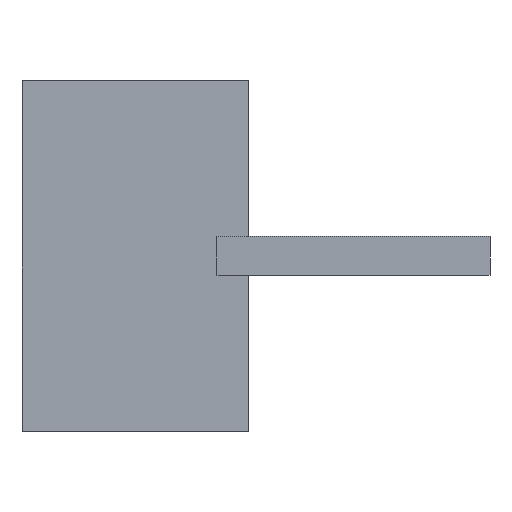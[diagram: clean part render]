
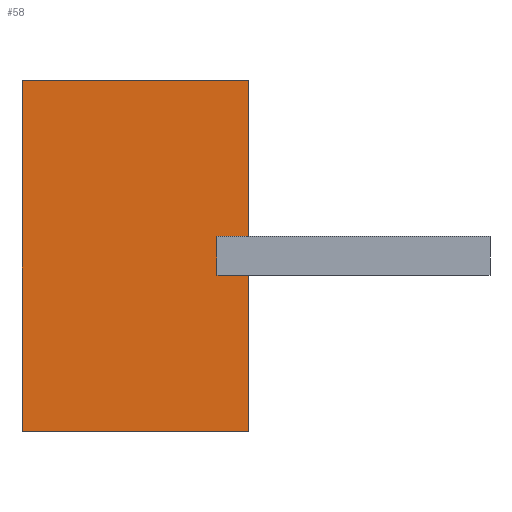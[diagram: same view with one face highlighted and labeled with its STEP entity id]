
A CAD part, top view. The second image highlights one B-rep face of the part: STEP entity #58.
In plain terms, the highlighted planar face has unit normal (0, 0, 1).
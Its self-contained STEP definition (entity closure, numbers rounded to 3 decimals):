
#58=ADVANCED_FACE('',(#166),#168,.T.);
#166=FACE_BOUND('',#167,.T.);
#167=EDGE_LOOP('',(#250,#251,#252,#253,#254,#255,#256,#257));
#168=PLANE('',#169);
#169=AXIS2_PLACEMENT_3D('',#170,#171,#172);
#170=CARTESIAN_POINT('',(0.,0.,1.));
#171=DIRECTION('',(0.,0.,1.));
#172=DIRECTION('',(-1.,0.,0.));
#250=ORIENTED_EDGE('',*,*,#306,.F.);
#251=ORIENTED_EDGE('',*,*,#307,.F.);
#252=ORIENTED_EDGE('',*,*,#308,.T.);
#253=ORIENTED_EDGE('',*,*,#309,.T.);
#254=ORIENTED_EDGE('',*,*,#310,.T.);
#255=ORIENTED_EDGE('',*,*,#311,.T.);
#256=ORIENTED_EDGE('',*,*,#312,.T.);
#257=ORIENTED_EDGE('',*,*,#313,.F.);
#306=EDGE_CURVE('',#334,#335,#336,.T.);
#307=EDGE_CURVE('',#337,#334,#338,.T.);
#308=EDGE_CURVE('',#337,#339,#340,.T.);
#309=EDGE_CURVE('',#339,#341,#342,.T.);
#310=EDGE_CURVE('',#341,#343,#344,.T.);
#311=EDGE_CURVE('',#343,#345,#346,.T.);
#312=EDGE_CURVE('',#345,#347,#348,.T.);
#313=EDGE_CURVE('',#335,#347,#349,.T.);
#334=VERTEX_POINT('',#380);
#335=VERTEX_POINT('',#381);
#336=LINE('',#382,#383);
#337=VERTEX_POINT('',#385);
#338=LINE('',#386,#387);
#339=VERTEX_POINT('',#389);
#340=LINE('',#390,#391);
#341=VERTEX_POINT('',#393);
#342=LINE('',#394,#395);
#343=VERTEX_POINT('',#397);
#344=LINE('',#398,#399);
#345=VERTEX_POINT('',#401);
#346=LINE('',#402,#403);
#347=VERTEX_POINT('',#405);
#348=LINE('',#406,#407);
#349=LINE('',#409,#410);
#380=CARTESIAN_POINT('',(2.1,0.5,1.));
#381=CARTESIAN_POINT('',(2.1,-0.5,1.));
#382=CARTESIAN_POINT('',(2.1,0.5,1.));
#383=VECTOR('',#384,1.);
#384=DIRECTION('',(0.,-1.,0.));
#385=CARTESIAN_POINT('',(2.9,0.5,1.));
#386=CARTESIAN_POINT('',(2.9,0.5,1.));
#387=VECTOR('',#388,1.);
#388=DIRECTION('',(-1.,0.,0.));
#389=CARTESIAN_POINT('',(2.9,4.5,1.));
#390=CARTESIAN_POINT('',(2.9,0.5,1.));
#391=VECTOR('',#392,1.);
#392=DIRECTION('',(0.,1.,0.));
#393=CARTESIAN_POINT('',(-2.9,4.5,1.));
#394=CARTESIAN_POINT('',(2.9,4.5,1.));
#395=VECTOR('',#396,1.);
#396=DIRECTION('',(-1.,0.,0.));
#397=CARTESIAN_POINT('',(-2.9,-4.5,1.));
#398=CARTESIAN_POINT('',(-2.9,4.5,1.));
#399=VECTOR('',#400,1.);
#400=DIRECTION('',(0.,-1.,0.));
#401=CARTESIAN_POINT('',(2.9,-4.5,1.));
#402=CARTESIAN_POINT('',(-2.9,-4.5,1.));
#403=VECTOR('',#404,1.);
#404=DIRECTION('',(1.,0.,0.));
#405=CARTESIAN_POINT('',(2.9,-0.5,1.));
#406=CARTESIAN_POINT('',(2.9,-4.5,1.));
#407=VECTOR('',#408,1.);
#408=DIRECTION('',(0.,1.,0.));
#409=CARTESIAN_POINT('',(2.1,-0.5,1.));
#410=VECTOR('',#411,1.);
#411=DIRECTION('',(1.,0.,0.));
